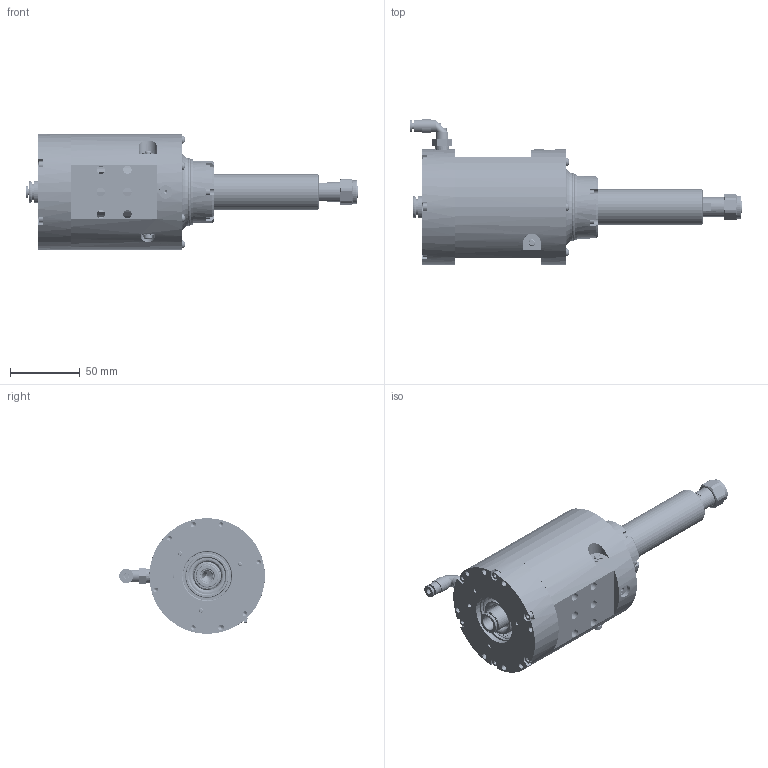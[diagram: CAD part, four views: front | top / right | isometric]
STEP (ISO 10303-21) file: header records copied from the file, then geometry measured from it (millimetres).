
FILE_DESCRIPTION (( 'STEP AP214' ), '1' );
FILE_NAME ('9150-RCV-250-E.STEP', '2020-11-16T20:07:31', ( '' ), ( '' ), 'SwSTEP 2.0', 'SolidWorks 2020', '' );
FILE_SCHEMA (( 'AUTOMOTIVE_DESIGN' ));
Length unit declared in the file: inch
Products named in the file (42): 3410-0001010-01; M3 SHCS Bolts_3500-1058020-15; 2MM Dowels Alloy Steel-11_3540-0102006-11; 3690-0802502-51; 3490-0001073-01; 3700-50-9004; 3540-0102008-11; 3500-1957030-11; 3700-50-5008; 3700-50-9179; 3690-0602501-51; 3700-50-4224; 3690-0600301-02_3690-0600301-02; 9005-50-6155; M3 SHCS Bolts_3500-1058025-15A; 3410-0001112-01; 3410-0001276-01; M3 SBHCS_3500-1158005-21; 3700-50-3003; 3410-0001102-01; 9005-50-6156; 9150-RCV-250-E; 9005-50-6157; 3700-50-9208; 3405-1230021-01; 3700-50-9182; 3410-0001113-01; 3410-0001548-01_9559K123; M2.5 SHCS Bolts_3500-1056025-11; 3410-0001028-01; 3700-50-9180; 9005-50-6158; 3606-5501400-10_3606-5501400-10; 3500-1956005-12_B18.3.6M - M2.5 x 0.45 x 5 Hex Socket Flat Pt. SS --N; 3700-50-9184_Installed; 3405-2210001-01; 3700-50-9005; 3500-1958005-21; 3690-7002501-11; 3700-50-9183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
Assembly tree (94 placements, depth 4):
  9150-RCV-250-E
    9005-50-6157
      3700-50-9182
      3540-0102008-11  x2
      M3 SHCS Bolts_3500-1058025-15A  x6
      9005-50-6158
        3700-50-9183
        3690-0602501-51  x9
        3700-50-3003  x9
        3410-0001102-01  x9
        3410-0001548-01_9559K123
        3410-0001276-01
        3410-0001028-01
      M3 SHCS Bolts_3500-1058020-15  x3
      3405-2210001-01
    3700-50-9208
    9005-50-6156
      3700-50-9181
      3700-50-4224  x2
      3690-0802502-51  x2
      3500-1957030-11  x2
      3700-50-9005  x3
      3700-50-9004
      3410-0001113-01  x2
    9005-50-6155
      3700-50-9180
      3410-0001010-01  x2
      3690-7002501-11
    3490-0001073-01
    3405-1230021-01
    3700-50-9178
    3700-50-9184_Installed
    3410-0001112-01
    3700-50-5008
    3700-50-9179
    3500-1958005-21  x2
    3606-5501400-10_3606-5501400-10
    3690-0600301-02_3690-0600301-02  x2
    M3 SBHCS_3500-1158005-21  x6
    3500-1956005-12_B18.3.6M - M2.5 x 0.45 x 5 Hex Socket Flat Pt. SS --N  x2
    M2.5 SHCS Bolts_3500-1056025-11  x6
    2MM Dowels Alloy Steel-11_3540-0102006-11  x2
Bounding box: 237.22 x 104.19 x 82.55 mm (x, y, z)
Volume: 456103.5 mm3; surface area: 241834.8 mm2
Topology: 116 solids, 116 shells, 3401 faces, 8045 edges, 5040 vertices
Faces by surface type: cylinder 1363, plane 1127, cone 578, torus 194, bspline 95, sphere 44
Entity records: 98837 total; most frequent: CARTESIAN_POINT 34051, DIRECTION 13359, ORIENTED_EDGE 12556, EDGE_CURVE 6278, AXIS2_PLACEMENT_3D 5223, VERTEX_POINT 3974, EDGE_LOOP 3124, LINE 2913
